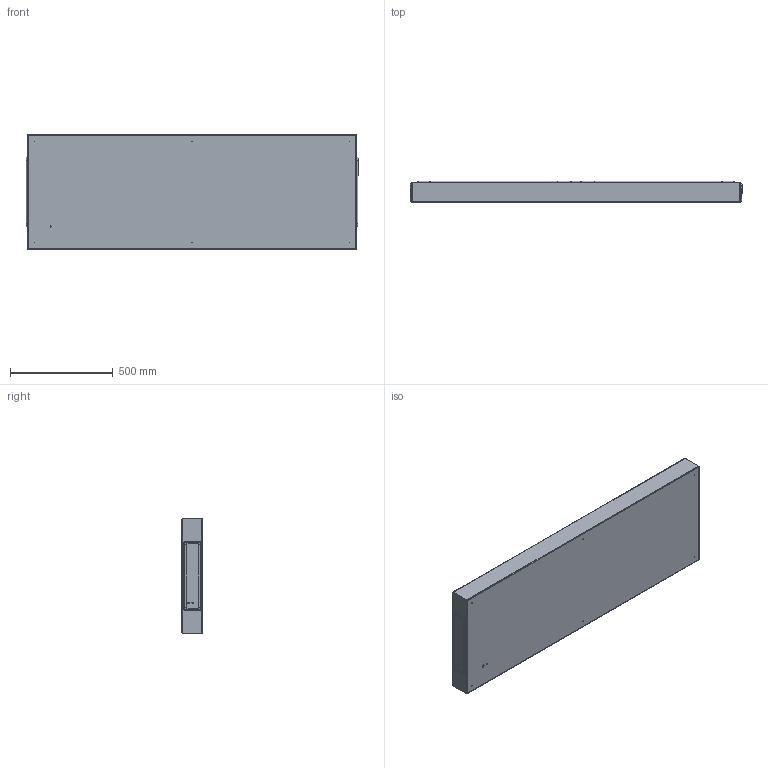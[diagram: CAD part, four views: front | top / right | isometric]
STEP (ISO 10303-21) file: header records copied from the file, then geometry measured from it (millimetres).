
FILE_DESCRIPTION (( 'STEP AP203' ), '1' );
FILE_NAME ('97850.step', '2013-03-28T12:57:15', ( '' ), ( '' ), 'SwSTEP 2.0', 'SolidWorks 2010', '' );
FILE_SCHEMA (( 'CONFIG_CONTROL_DESIGN' ));
Length unit declared in the file: inch
Products named in the file (12): 60100041_60100041; 87931527_87931527; 87931368_SLEEVE; 89002205_89002205; 60127195_60127195; 87418167; 87787624_FORMED; 99401225_Config-Drawing; 89051421_87788216; 97850; 11458066_11458066; 11458327_11458327
Assembly tree (12 placements, depth 4):
  97850
    11458066_11458066
      60100041_60100041
        87931527_87931527
        87931368_SLEEVE
      89002205_89002205
      11458327_11458327
    60127195_60127195  x2
      87418167
        87787624_FORMED
        99401225_Config-Drawing
      89051421_87788216
Bounding box: 1614.86 x 104.95 x 558.98 mm (x, y, z)
Volume: 2917010.7 mm3; surface area: 3105542.9 mm2
Topology: 10 solids, 10 shells, 459 faces, 1084 edges, 672 vertices
Faces by surface type: plane 219, cylinder 130, torus 68, sphere 24, cone 10, bspline 8
Entity records: 12456 total; most frequent: CARTESIAN_POINT 2367, DIRECTION 1880, ORIENTED_EDGE 1772, EDGE_CURVE 886, AXIS2_PLACEMENT_3D 665, VERTEX_POINT 552, VECTOR 550, LINE 550
